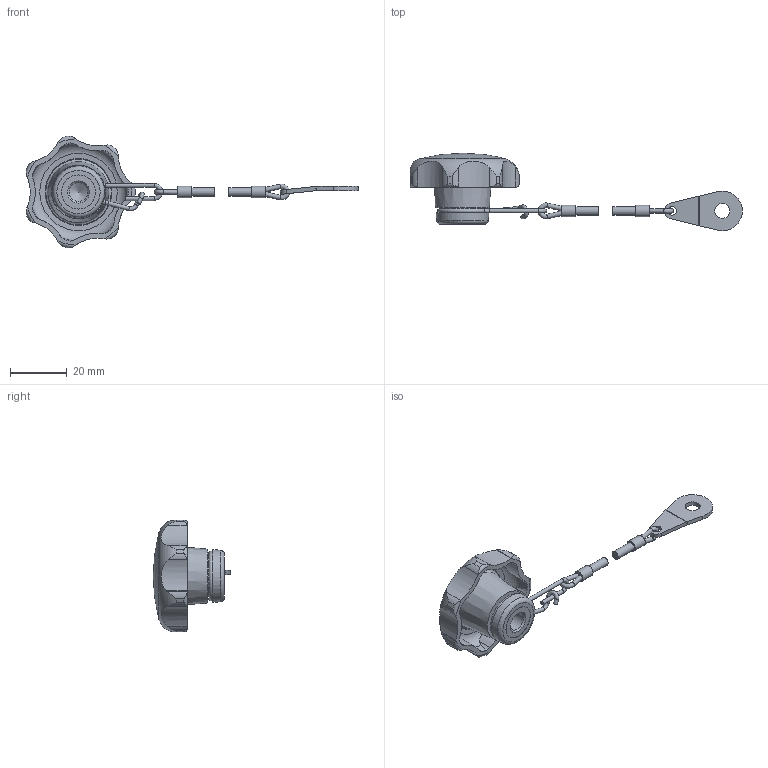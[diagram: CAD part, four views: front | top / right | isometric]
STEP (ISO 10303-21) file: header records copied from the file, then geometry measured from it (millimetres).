
FILE_DESCRIPTION( ( 'STEP AP203' ), '1' );
FILE_NAME( 'C:/Temp/Ganter_Step_05_03_2020/data/2_2/gn_6336_13/gn_6336_13_1/Star knob GN 6336.13-40-M8-H.stp', '2020-03-05T12:10:44', ( 'License CC BY-ND 4.0' ), ( 'CADENAS' ), ' ', 'PARTsolutions', ' ' );
FILE_SCHEMA( ( 'CONFIG_CONTROL_DESIGN' ) );
Length unit declared in the file: millimetre
Products named in the file (3): Star knob GN 6336.13-40-M8-H; _Star knob GN 6336.13-40-M8-H 2; _Star knob GN 111.2-200-14 h1
Assembly tree (2 placements, depth 2):
  Star knob GN 6336.13-40-M8-H
    _Star knob GN 6336.13-40-M8-H 2
    _Star knob GN 111.2-200-14 h1
Bounding box: 116.85 x 27.28 x 39.31 mm (x, y, z)
Volume: 11316.9 mm3; surface area: 7014.7 mm2
Topology: 2 solids, 2 shells, 156 faces, 429 edges, 279 vertices
Faces by surface type: cylinder 88, plane 35, torus 20, cone 12, sphere 1
Full cylindrical faces by diameter (mm): 1.4 x5, 1.6 x4, 3 x3, 4 x2, 5.3 x1, 6.647 x1, 12.05 x1, 14.7 x1
Entity records: 5546 total; most frequent: CARTESIAN_POINT 1792, ORIENTED_EDGE 742, DIRECTION 730, EDGE_CURVE 371, AXIS2_PLACEMENT_3D 306, VERTEX_POINT 266, EDGE_LOOP 209, FACE_OUTER_BOUND 186
